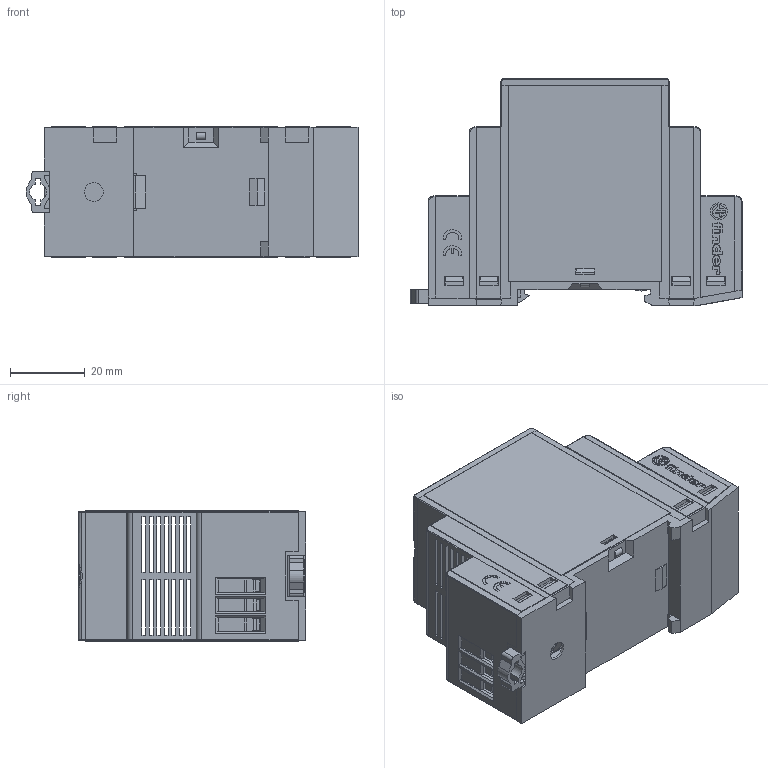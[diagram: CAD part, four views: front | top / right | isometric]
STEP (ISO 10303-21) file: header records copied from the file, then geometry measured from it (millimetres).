
FILE_DESCRIPTION(/* description */ ('Unknown'),/* implementation_level */ '2;1');
FILE_NAME(/* name */ '1251_rev02',/* time_stamp */ '2016-12-01T16:18:44+01:00',/* author */ ('Unknown'),/* organization */ ('Unknown'),/* preprocessor_version */ 'ST-DEVELOPER v16.7',/* originating_system */ 'DEX',/* authorisation */ $);
FILE_SCHEMA (('AP242_MANAGED_MODEL_BASED_3D_ENGINEERING_MIM_LF { 1 0 10303 442 1 1 4 }','AUTOMOTIVE_DESIGN {1 0 10303 214 3 1 1}'));
Length unit declared in the file: millimetre
Products named in the file (1): 1251_rev02
Bounding box: 88.85 x 60.8 x 35 mm (x, y, z)
Surface area: 24546.8 mm2 (no closed solid volume)
Topology: 0 solids, 37 shells, 1182 faces, 4282 edges, 3065 vertices
Faces by surface type: plane 994, cylinder 114, bspline 26, cone 24, torus 22, sphere 2
Full cylindrical faces by diameter (mm): 2 x1, 3 x2, 3.3 x1, 4.2 x5, 4.566 x2, 5 x1
Entity records: 50484 total; most frequent: CARTESIAN_POINT 10036, DIRECTION 6824, ORIENTED_EDGE 6781, EDGE_CURVE 4258, LINE 3710, VECTOR 3710, VERTEX_POINT 3058, AXIS2_PLACEMENT_3D 1557
